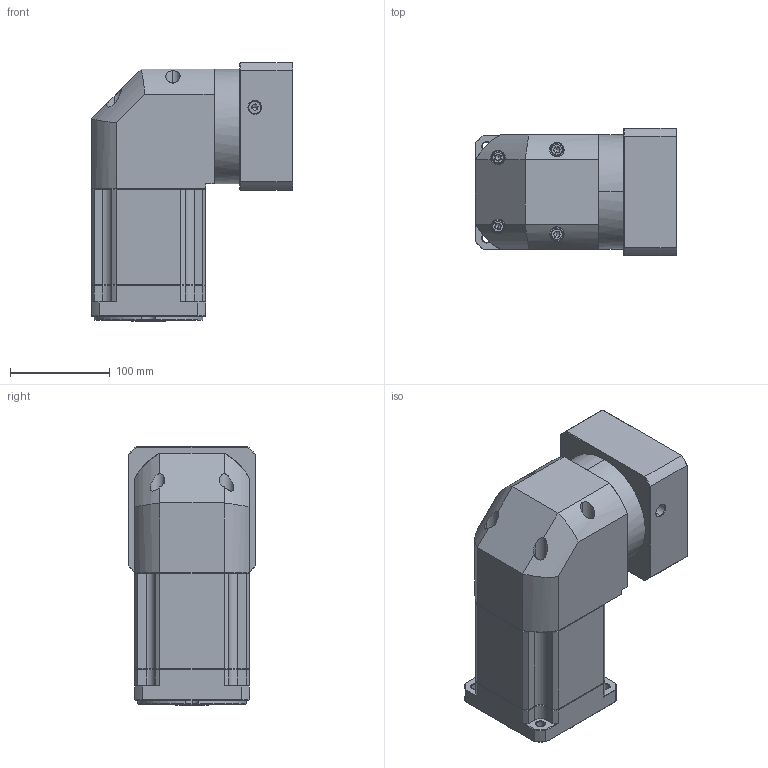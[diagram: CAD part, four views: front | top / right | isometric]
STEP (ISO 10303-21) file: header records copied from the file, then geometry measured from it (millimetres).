
FILE_DESCRIPTION (( 'STEP AP214' ), '1' );
FILE_NAME ('ZBR115A-K25-L3-P2-28-110-145-M8.step', '2023-08-26T12:47:03', ( '' ), ( '' ), 'SwSTEP 2.0', 'SolidWorks 2016', '' );
FILE_SCHEMA (( 'AUTOMOTIVE_DESIGN' ));
Length unit declared in the file: millimetre
Products named in the file (1): ZBR115A-K25-L3-P2-28-110-145-M8
Bounding box: 202.4 x 128 x 260 mm (x, y, z)
Volume: 3762130.3 mm3; surface area: 283303.1 mm2
Topology: 6 solids, 6 shells, 2326 faces, 6090 edges, 3865 vertices
Faces by surface type: plane 1133, bspline 416, cylinder 406, cone 363, torus 8
Entity records: 122683 total; most frequent: CARTESIAN_POINT 43283, ORIENTED_EDGE 12124, DIRECTION 9588, EDGE_CURVE 6062, LINE 3942, VECTOR 3942, VERTEX_POINT 3865, AXIS2_PLACEMENT_3D 2823
